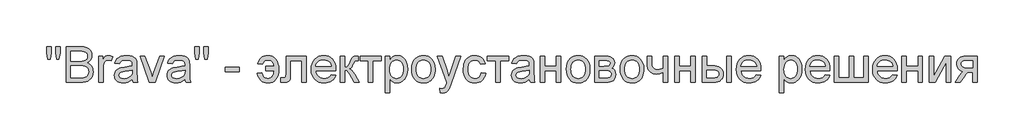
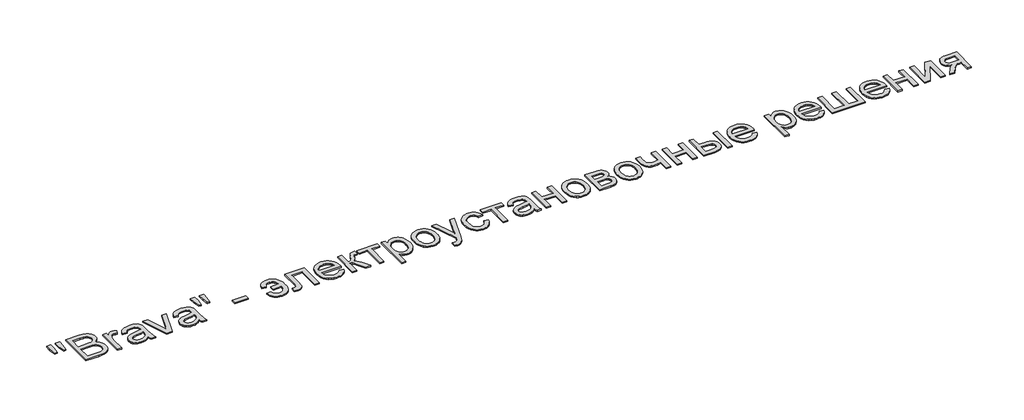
# One storey, part 47 of 47: 1 proxy.
"""IFC4 building model written with IfcOpenShell, lengths in millimetres."""

from ifc_helpers import new_model, si_unit, origin, origin_with_axes, place, context, project, spatial, polyline, outline, extrude, element, save

model = new_model("IFC4")

# Units and contexts
model_context = context("Model", 3, world=origin())
ifc_project = project(units=[si_unit("LENGTHUNIT", "METRE", prefix="MILLI")], contexts=[model_context])

# Site, building, storey
site = spatial("IfcSite", under=ifc_project)
building = spatial("IfcBuilding", under=site)
storey = spatial("IfcBuildingStorey", under=building, Name="Этаж 01", Elevation=0.0)

# Proxy
placement = place(None, origin())
element("IfcBuildingElementProxy", 1, Name="600 мм Arial", ObjectType="600 мм Arial", at=placement, inside=storey, context=model_context, shape_type="SweptSolid", body=[
    extrude(outline(polyline([(-7320.2153929, 8387.4066217), (-7338.6094927, 8503.8044849), (-7338.6094927, 8604.0155404), (-7263.2672601, 8604.0155404), (-7263.2672601, 8503.8044849), (-7279.7483734, 8387.4066217), (-7320.2153929, 8387.4066217)])), origin_with_axes(), (0.0, 0.0, 1.0), 20.0),
    extrude(outline(polyline([(-7169.9723861, 8387.4066217), (-7187.9250274, 8503.8044849), (-7187.9250274, 8604.0155404), (-7112.5827948, 8604.0155404), (-7112.5827948, 8503.8044849), (-7130.2411306, 8387.4066217), (-7169.9723861, 8387.4066217)])), origin_with_axes(), (0.0, 0.0, 1.0), 20.0),
    extrude(outline(polyline([(-7008.987225, 8001.2776795), (-7008.987225, 8604.0155404), (-6778.9874016, 8604.0155404), (-6715.7300925, 8599.5825624), (-6666.3419347, 8586.2836283), (-6646.2647748, 8576.2266542), (-6628.4868774, 8563.7876443), (-6613.0082424, 8548.9665984), (-6599.82887, 8531.7635166), (-6581.7842581, 8494.0924003), (-6575.7693875, 8454.6554504), (-6580.8277649, 8418.3638916), (-6596.0028972, 8384.2428365), (-6621.405149, 8354.3892126), (-6657.1448848, 8330.8999472), (-6634.405179, 8321.2062566), (-6614.4521793, 8308.6062983), (-6597.2858857, 8293.1000722), (-6582.9062982, 8274.6875783), (-6571.5433431, 8253.9298368), (-6563.4269465, 8231.3878675), (-6558.5571086, 8207.0616706), (-6556.9338293, 8180.951246), (-6561.3668074, 8138.920728), (-6574.6657415, 8099.9436306), (-6594.5129751, 8066.7974629), (-6618.5908517, 8042.2597338), (-6648.0765936, 8024.4910334), (-6684.1474233, 8011.6519518), (-6727.980563, 8003.8712476), (-6780.7532352, 8001.2776795), (-7008.987225, 8001.2776795)]), holes=[polyline([(-6933.6449924, 8359.1532844), (-6796.0571262, 8359.1532844), (-6747.9381612, 8360.7719652), (-6715.7116984, 8365.6280076), (-6687.5871199, 8376.7932261), (-6667.3720043, 8393.5134628), (-6655.1767161, 8415.5312002), (-6651.1116201, 8442.5889209), (-6654.9008046, 8468.8556954), (-6666.2683583, 8491.7379555), (-6684.6992462, 8509.5986264), (-6709.6784337, 8520.8006331), (-6748.0117376, 8526.7051391), (-6806.5049748, 8528.6733078), (-6933.6449924, 8528.6733078), (-6933.6449924, 8359.1532844)]), polyline([(-6933.6449924, 8076.6199121), (-6779.1345544, 8076.6199121), (-6723.2164911, 8079.5629681), (-6697.2624164, 8086.0928735), (-6675.9068666, 8095.9705051), (-6658.5428364, 8110.1155678), (-6644.5633206, 8129.4477667), (-6635.3478766, 8153.1025789), (-6632.2760619, 8180.215482), (-6635.8813055, 8211.7061808), (-6646.6970361, 8238.7822956), (-6665.5877766, 8259.9539044), (-6693.4180495, 8273.7310852), (-6732.8366053, 8281.2910602), (-6786.4921943, 8283.8110518), (-6933.6449924, 8283.8110518), (-6933.6449924, 8076.6199121)])]), origin_with_axes(), (0.0, 0.0, 1.0), 20.0),
    extrude(outline(polyline([(-6462.7560386, 8001.2776795), (-6462.7560386, 8443.9132961), (-6396.831585, 8443.9132961), (-6396.831585, 8378.430301), (-6372.4777969, 8416.3957229), (-6350.0369952, 8438.7629482), (-6327.5226171, 8449.6890435), (-6302.9480999, 8453.3310752), (-6265.4241363, 8447.5185397), (-6227.3115616, 8430.0809331), (-6252.4746901, 8362.5377988), (-6278.9621938, 8374.1260816), (-6305.4496974, 8377.9888426), (-6327.9456814, 8374.2732344), (-6348.0504325, 8363.12641), (-6364.2924225, 8345.3944978), (-6375.2001237, 8321.9236265), (-6384.3603854, 8279.8379263), (-6387.4138059, 8233.9262533), (-6387.4138059, 8001.2776795), (-6462.7560386, 8001.2776795)])), origin_with_axes(), (0.0, 0.0, 1.0), 20.0),
    extrude(outline(polyline([(-5897.689294, 8057.784354), (-5933.6865472, 8026.9190546), (-5970.7506582, 8006.7223331), (-6009.7277556, 7995.5755086), (-6051.4639679, 7991.8599005), (-6085.0102074, 7994.0947836), (-6114.4269714, 8000.7994329), (-6139.7142601, 8011.9738485), (-6160.8720733, 8027.6180304), (-6177.5785144, 8046.7386971), (-6189.5116866, 8068.3425673), (-6196.67159, 8092.4296409), (-6199.0582244, 8118.999918), (-6195.4529809, 8150.2330994), (-6184.6372502, 8178.5968012), (-6167.9538017, 8202.8770129), (-6146.7454047, 8221.8597238), (-6121.8213995, 8236.2071217), (-6093.9911266, 8246.5813939), (-6028.802437, 8257.9121594), (-5951.7679473, 8269.831536), (-5898.1307524, 8283.8110518), (-5897.689294, 8300.5864708), (-5902.8764301, 8334.2108852), (-5909.3603503, 8346.6636907), (-5918.4378385, 8356.2102285), (-5934.1280056, 8365.7383722), (-5953.2394752, 8372.5441891), (-6001.7263222, 8377.9888426), (-6046.6079256, 8374.3652049), (-6077.9514716, 8363.494292), (-6099.3254155, 8343.3895409), (-6114.2982127, 8312.0643891), (-6189.6404453, 8321.4821681), (-6176.5622404, 8362.6849516), (-6157.0461006, 8395.0585672), (-6129.2710099, 8419.8170254), (-6091.4159526, 8438.174337), (-6045.1180035, 8449.5418907), (-5992.0142375, 8453.3310752), (-5941.0809753, 8449.9833491), (-5900.7059263, 8439.9401706), (-5870.2636912, 8424.8386147), (-5849.1288706, 8406.3157562), (-5835.1125666, 8383.415102), (-5826.0258813, 8355.1801589), (-5822.3470614, 8289.2557054), (-5822.3470614, 8195.519373), (-5818.5210886, 8064.6269591), (-5812.8557059, 8032.2717376), (-5803.5115032, 8001.2776795), (-5878.8537358, 8001.2776795), (-5890.9202653, 8027.4708776), (-5897.689294, 8057.784354)]), holes=[polyline([(-5897.689294, 8208.4688192), (-5948.3098565, 8195.9240432), (-6019.2375052, 8185.3658299), (-6084.0583127, 8173.1521477), (-6100.9257022, 8164.8012264), (-6113.4152959, 8153.2865199), (-6121.1408178, 8139.4909451), (-6123.7159918, 8124.2974187), (-6118.1057914, 8101.8934052), (-6101.2751901, 8083.5360937), (-6073.59207, 8071.2856232), (-6035.424313, 8067.2021331), (-5994.9572935, 8071.7086875), (-5959.1991636, 8085.2283508), (-5930.2100623, 8105.1491609), (-5910.050129, 8128.8591555), (-5901.1105965, 8153.2865199), (-5898.1307524, 8187.1316635), (-5897.689294, 8208.4688192)])]), origin_with_axes(), (0.0, 0.0, 1.0), 20.0),
    extrude(outline(polyline([(-5610.1527265, 8001.2776795), (-5765.8403869, 8443.9132961), (-5686.0835703, 8443.9132961), (-5591.7586268, 8178.743954), (-5563.3581367, 8089.5693584), (-5535.5462579, 8173.7407589), (-5440.6327032, 8443.9132961), (-5360.8758866, 8443.9132961), (-5514.6505606, 8001.2776795), (-5610.1527265, 8001.2776795)])), origin_with_axes(), (0.0, 0.0, 1.0), 20.0),
    extrude(outline(polyline([(-5012.4180608, 8057.784354), (-5048.415314, 8026.9190546), (-5085.479425, 8006.7223331), (-5124.4565224, 7995.5755086), (-5166.1927348, 7991.8599005), (-5199.7389742, 7994.0947836), (-5229.1557382, 8000.7994329), (-5254.4430269, 8011.9738485), (-5275.6008401, 8027.6180304), (-5292.3072812, 8046.7386971), (-5304.2404534, 8068.3425673), (-5311.4003568, 8092.4296409), (-5313.7869912, 8118.999918), (-5310.1817477, 8150.2330994), (-5299.366017, 8178.5968012), (-5282.6825685, 8202.8770129), (-5261.4741715, 8221.8597238), (-5236.5501663, 8236.2071217), (-5208.7198934, 8246.5813939), (-5143.5312039, 8257.9121594), (-5066.4967141, 8269.831536), (-5012.8595192, 8283.8110518), (-5012.4180608, 8300.5864708), (-5017.6051969, 8334.2108852), (-5024.0891171, 8346.6636907), (-5033.1666053, 8356.2102285), (-5048.8567724, 8365.7383722), (-5067.968242, 8372.5441891), (-5116.455089, 8377.9888426), (-5161.3366924, 8374.3652049), (-5192.6802384, 8363.494292), (-5214.0541823, 8343.3895409), (-5229.0269795, 8312.0643891), (-5304.3692121, 8321.4821681), (-5291.2910072, 8362.6849516), (-5271.7748674, 8395.0585672), (-5243.9997767, 8419.8170254), (-5206.1447194, 8438.174337), (-5159.8467703, 8449.5418907), (-5106.7430043, 8453.3310752), (-5055.8097421, 8449.9833491), (-5015.4346931, 8439.9401706), (-4984.992458, 8424.8386147), (-4963.8576374, 8406.3157562), (-4949.8413334, 8383.415102), (-4940.7546481, 8355.1801589), (-4937.0758282, 8289.2557054), (-4937.0758282, 8195.519373), (-4933.2498554, 8064.6269591), (-4927.5844727, 8032.2717376), (-4918.24027, 8001.2776795), (-4993.5825026, 8001.2776795), (-5005.6490321, 8027.4708776), (-5012.4180608, 8057.784354)]), holes=[polyline([(-5012.4180608, 8208.4688192), (-5063.0386233, 8195.9240432), (-5133.966272, 8185.3658299), (-5198.7870795, 8173.1521477), (-5215.654469, 8164.8012264), (-5228.1440627, 8153.2865199), (-5235.8695846, 8139.4909451), (-5238.4447586, 8124.2974187), (-5232.8345582, 8101.8934052), (-5216.0039569, 8083.5360937), (-5188.3208368, 8071.2856232), (-5150.1530798, 8067.2021331), (-5109.6860603, 8071.7086875), (-5073.9279304, 8085.2283508), (-5044.9388291, 8105.1491609), (-5024.7788958, 8128.8591555), (-5015.8393633, 8153.2865199), (-5012.8595192, 8187.1316635), (-5012.4180608, 8208.4688192)])]), origin_with_axes(), (0.0, 0.0, 1.0), 20.0),
    extrude(outline(polyline([(-4683.6787099, 8387.4066217), (-4701.6313512, 8503.8044849), (-4701.6313512, 8604.0155404), (-4626.2891186, 8604.0155404), (-4626.2891186, 8503.8044849), (-4643.9474544, 8387.4066217), (-4683.6787099, 8387.4066217)])), origin_with_axes(), (0.0, 0.0, 1.0), 20.0),
    extrude(outline(polyline([(-4833.9217167, 8387.4066217), (-4852.3158165, 8503.8044849), (-4852.3158165, 8604.0155404), (-4776.9735839, 8604.0155404), (-4776.9735839, 8503.8044849), (-4793.4546972, 8387.4066217), (-4833.9217167, 8387.4066217)])), origin_with_axes(), (0.0, 0.0, 1.0), 20.0),
    extrude(outline(polyline([(-4334.3379673, 8180.215482), (-4334.3379673, 8255.5577146), (-4098.8934903, 8255.5577146), (-4098.8934903, 8180.215482), (-4334.3379673, 8180.215482)])), origin_with_axes(), (0.0, 0.0, 1.0), 20.0),
    extrude(outline(polyline([(-3656.2578738, 8274.3932728), (-3514.9911876, 8274.3932728), (-3519.4379612, 8296.3420323), (-3526.5978646, 8316.1294851), (-3536.4708976, 8333.7556312), (-3549.0570604, 8349.2204706), (-3563.9884708, 8361.8066333), (-3580.897247, 8370.7967496), (-3599.783389, 8376.1908193), (-3620.6468966, 8377.9888426), (-3654.9334986, 8373.2799531), (-3681.7153078, 8359.1532844), (-3700.9923244, 8335.6088367), (-3712.7645482, 8302.64661), (-3788.1067808, 8312.0643891), (-3781.3975329, 8341.7662616), (-3770.5404156, 8368.6262458), (-3755.5354287, 8392.6443416), (-3736.3825723, 8413.8205489), (-3713.5141078, 8431.1064042), (-3687.3622964, 8443.4534436), (-3657.9271383, 8450.8616673), (-3625.2086334, 8453.3310752), (-3584.4978921, 8449.4867084), (-3548.3029023, 8437.9536078), (-3516.623664, 8418.7317736), (-3489.4601771, 8391.8212056), (-3467.6677674, 8358.1783972), (-3452.1017605, 8318.7598414), (-3442.7621564, 8273.5655383), (-3439.648955, 8222.5954878), (-3441.6309192, 8172.1772604), (-3449.9312568, 8126.8725927), (-3464.5499675, 8086.6814847), (-3485.4870516, 8051.6039365), (-3512.0619272, 8023.4793579), (-3543.5940127, 8004.1471591), (-3580.0833081, 7993.6073399), (-3621.5298134, 7991.8599005), (-3656.6993321, 7994.6144169), (-3688.3371837, 8002.8779662), (-3716.4433682, 8016.6505484), (-3741.0178854, 8035.9321635), (-3761.6560654, 8059.7111359), (-3777.9532378, 8086.9757903), (-3789.9094026, 8117.7261266), (-3797.5245599, 8151.9621448), (-3722.1823273, 8161.3799238), (-3710.2813447, 8120.1771404), (-3701.0888934, 8103.9903326), (-3689.7351353, 8090.7465808), (-3676.2200705, 8080.4458849), (-3660.543699, 8073.088245), (-3642.7060208, 8068.673661), (-3622.7070358, 8067.2021331), (-3600.1098842, 8069.2622722), (-3580.1430889, 8075.4426898), (-3562.8066499, 8085.7433856), (-3548.1005672, 8100.1643598), (-3535.9880525, 8118.7056124), (-3526.4323177, 8141.3671433), (-3519.4333627, 8168.1489525), (-3514.9911876, 8199.0510401), (-3656.2578738, 8199.0510401), (-3656.2578738, 8274.3932728)])), origin_with_axes(), (0.0, 0.0, 1.0), 20.0),
    extrude(outline(polyline([(-3317.217827, 8443.9132961), (-2978.1777802, 8443.9132961), (-2978.1777802, 8001.7191379), (-3053.5200129, 8001.7191379), (-3053.5200129, 8368.5710635), (-3241.8755944, 8368.5710635), (-3241.8755944, 8157.4067983), (-3243.1447873, 8096.1176579), (-3246.9523659, 8059.991646), (-3256.4621155, 8037.9371204), (-3274.8378212, 8018.8624389), (-3302.7232764, 8005.6738694), (-3340.7622747, 8001.2776795), (-3401.9778387, 8005.1036523), (-3401.9778387, 8076.6199121), (-3368.2798479, 8076.6199121), (-3347.8440031, 8077.7787404), (-3334.2139752, 8081.2552253), (-3325.697507, 8087.2517018), (-3320.6023414, 8095.9705051), (-3317.217827, 8161.6742294), (-3317.217827, 8443.9132961)])), origin_with_axes(), (0.0, 0.0, 1.0), 20.0),
    extrude(outline(polyline([(-2555.2606386, 8133.1265866), (-2481.389934, 8123.7088075), (-2492.7161009, 8094.1218981), (-2508.0061963, 8068.0482617), (-2527.2602202, 8045.4878983), (-2550.4781726, 8026.440808), (-2577.4209303, 8011.311661), (-2607.8493698, 8000.5051273), (-2641.7634912, 7994.0212072), (-2679.1632946, 7991.8599005), (-2725.9118991, 7995.5893042), (-2767.565338, 8006.7775154), (-2804.1236113, 8025.424534), (-2835.5867189, 8051.5303601), (-2860.8878031, 8084.3684267), (-2878.9600061, 8123.2121668), (-2889.8033279, 8168.0615806), (-2893.4177686, 8218.9166679), (-2889.7665397, 8271.496202), (-2878.8128533, 8317.8401364), (-2860.5567093, 8357.9484709), (-2834.9981077, 8391.8212056), (-2803.6177735, 8418.7317736), (-2767.8964318, 8437.9536078), (-2727.8340825, 8449.4867084), (-2683.4307257, 8453.3310752), (-2640.4575101, 8449.4959054), (-2601.5953759, 8437.990396), (-2566.8443229, 8418.814547), (-2536.2043512, 8391.9683584), (-2511.1929741, 8358.1692001), (-2493.3277047, 8318.134442), (-2482.6085431, 8271.864084), (-2479.0354892, 8219.3581263), (-2479.4769476, 8199.0510401), (-2818.0755359, 8199.0510401), (-2813.7115358, 8168.9858841), (-2805.0341192, 8142.6547303), (-2792.0432863, 8120.0575787), (-2774.7390369, 8101.1944294), (-2754.0778644, 8086.3227998), (-2731.0162618, 8075.7002072), (-2705.5542292, 8069.3266516), (-2677.6917666, 8067.2021331), (-2637.5926291, 8071.1384704), (-2603.8210619, 8082.9474825), (-2576.3770651, 8103.3649332), (-2555.2606386, 8133.1265866)]), holes=[polyline([(-2818.0755359, 8274.3932728), (-2554.3777218, 8274.3932728), (-2564.5680531, 8314.1981046), (-2573.3328416, 8329.8514835), (-2584.5440454, 8342.6721711), (-2605.0902548, 8358.1232149), (-2628.4691556, 8369.1596747), (-2654.6807478, 8375.7815506), (-2683.7250313, 8377.9888426), (-2710.2171335, 8376.2276075), (-2734.5111407, 8370.9439024), (-2756.6070531, 8362.1377271), (-2776.5048705, 8349.8090818), (-2793.2021145, 8334.5281834), (-2805.6963068, 8316.8652491), (-2813.9874473, 8296.8202789), (-2818.0755359, 8274.3932728)])]), origin_with_axes(), (0.0, 0.0, 1.0), 20.0),
    extrude(outline(polyline([(-2403.6932566, 8443.9132961), (-2328.351024, 8443.9132961), (-2328.351024, 8255.5577146), (-2297.7064538, 8258.942229), (-2277.8776142, 8269.095772), (-2260.3296431, 8295.5832757), (-2236.527678, 8347.9696718), (-2217.3426319, 8390.8095301), (-2202.1674996, 8416.0278409), (-2188.0040428, 8429.7682334), (-2171.8540232, 8438.174337), (-2149.505192, 8442.4785563), (-2116.7453003, 8443.9132961), (-2102.3243261, 8443.9132961), (-2102.3243261, 8368.1296051), (-2122.6314123, 8368.5710635), (-2146.1758599, 8366.5845007), (-2159.4196118, 8360.6248124), (-2170.161766, 8344.0333344), (-2185.3185042, 8311.0343195), (-2201.2294005, 8277.9801222), (-2215.705557, 8257.3971246), (-2233.2351341, 8243.6567321), (-2258.3062921, 8231.1303501), (-2234.4307506, 8220.5261516), (-2210.7759383, 8201.8101551), (-2187.3418552, 8174.9823606), (-2164.1285013, 8140.0427681), (-2083.488768, 8001.2776795), (-2169.1316964, 8001.2776795), (-2248.152749, 8137.0997122), (-2269.4899047, 8173.2441182), (-2287.8840045, 8194.5628798), (-2306.4620452, 8204.9923344), (-2328.351024, 8208.4688192), (-2328.351024, 8001.2776795), (-2403.6932566, 8001.2776795), (-2403.6932566, 8443.9132961)])), origin_with_axes(), (0.0, 0.0, 1.0), 20.0),
    extrude(outline(polyline([(-2074.0709889, 8443.9132961), (-1716.195384, 8443.9132961), (-1716.195384, 8368.5710635), (-1857.4620701, 8368.5710635), (-1857.4620701, 8001.2776795), (-1932.8043027, 8001.2776795), (-1932.8043027, 8368.5710635), (-2074.0709889, 8368.5710635), (-2074.0709889, 8443.9132961)])), origin_with_axes(), (0.0, 0.0, 1.0), 20.0),
    extrude(outline(polyline([(-1650.2709305, 7831.7576562), (-1650.2709305, 8443.9132961), (-1574.9286978, 8443.9132961), (-1574.9286978, 8370.0425915), (-1550.3541806, 8406.4813031), (-1522.8366073, 8432.5089543), (-1490.7572973, 8448.125545), (-1452.4975698, 8453.3310752), (-1426.2215983, 8451.5100593), (-1401.5459135, 8446.0470117), (-1378.4705154, 8436.9419323), (-1356.9954039, 8424.1948212), (-1337.5896287, 8408.1367721), (-1320.7222392, 8389.0988788), (-1306.3932355, 8367.0811414), (-1294.6026175, 8342.0835599), (-1278.8204799, 8286.5701668), (-1273.5597674, 8225.9800022), (-1279.5010616, 8161.5454707), (-1286.9276794, 8131.8803863), (-1297.3249443, 8103.9167562), (-1310.550302, 8078.3857457), (-1326.4611983, 8056.0185204), (-1345.0576332, 8036.8150803), (-1366.3396066, 8020.7754253), (-1389.2632534, 8008.1248832), (-1412.7847085, 7999.0887817), (-1436.9039718, 7993.6671208), (-1461.6210433, 7991.8599005), (-1496.2571332, 7996.6975487), (-1527.1776149, 8011.2104934), (-1553.6467244, 8033.1178662), (-1574.9286978, 8060.1387988), (-1574.9286978, 7831.7576562), (-1650.2709305, 7831.7576562)]), holes=[polyline([(-1574.9286978, 8219.0638207), (-1572.8915513, 8182.7538678), (-1566.7801116, 8151.5206864), (-1556.5943789, 8125.3642765), (-1542.3343531, 8104.2846382), (-1525.1680595, 8088.0610422), (-1506.2635234, 8076.4727593), (-1485.620745, 8069.5197896), (-1463.2397241, 8067.2021331), (-1440.5368065, 8069.6025631), (-1419.516949, 8076.8038531), (-1400.1801516, 8088.8060032), (-1382.5264144, 8105.6090134), (-1367.8157331, 8127.4520068), (-1357.3081036, 8154.5741069), (-1351.0035259, 8186.9753136), (-1348.902, 8224.655627), (-1350.9529421, 8260.6528802), (-1357.1057685, 8291.8308793), (-1367.3604791, 8318.1896243), (-1381.717074, 8339.7291151), (-1398.9247543, 8356.4677459), (-1417.7327213, 8368.4239107), (-1438.140975, 8375.5976096), (-1460.1495153, 8377.9888426), (-1482.0890778, 8375.4458583), (-1502.7318563, 8367.8169054), (-1522.0778507, 8355.101984), (-1540.1270611, 8337.3010939), (-1555.3527772, 8314.6533586), (-1566.2282887, 8287.3979013), (-1572.7535955, 8255.534722), (-1574.9286978, 8219.0638207)])]), origin_with_axes(), (0.0, 0.0, 1.0), 20.0),
    extrude(outline(polyline([(-1207.6353139, 8222.5954878), (-1203.5610208, 8279.9206997), (-1191.3381415, 8329.3180546), (-1170.966676, 8370.7875525), (-1142.4466243, 8404.3291934), (-1113.7334346, 8425.7675167), (-1082.0404007, 8441.0806048), (-1047.3675227, 8450.2684576), (-1009.7148004, 8453.3310752), (-968.1487335, 8449.6016715), (-930.5649892, 8438.4134603), (-896.9635675, 8419.7664417), (-867.3444683, 8393.6606156), (-843.1700227, 8360.9788988), (-825.9025616, 8322.6042082), (-815.5420849, 8278.5365437), (-812.0885926, 8228.7759054), (-813.6153029, 8188.4468416), (-818.1954338, 8152.6611205), (-825.8289852, 8121.4187421), (-836.5159571, 8094.7197063), (-850.1229924, 8071.6581037), (-866.5167338, 8051.328025), (-885.6971813, 8033.72947), (-907.664335, 8018.8624389), (-931.5628691, 8007.0488283), (-956.537458, 7998.6105351), (-982.5881018, 7993.5475591), (-1009.7148004, 7991.8599005), (-1051.8878727, 7995.5755086), (-1089.8211049, 8006.7223331), (-1123.5144971, 8025.3003738), (-1152.9680494, 8051.3096309), (-1176.8849776, 8084.3086458), (-1193.9684977, 8123.8559603), (-1204.2186098, 8169.9515743), (-1207.6353139, 8222.5954878)]), holes=[polyline([(-1132.2930812, 8222.7426406), (-1130.1133804, 8186.1981629), (-1123.574278, 8154.5557128), (-1112.6757738, 8127.8152903), (-1097.4178681, 8105.9768954), (-1078.8582214, 8089.0129369), (-1058.0544946, 8076.8958236), (-1035.0066876, 8069.6255557), (-1009.7148004, 8067.2021331), (-984.551672, 8069.6393513), (-961.5958355, 8076.9510059), (-940.847291, 8089.137097), (-922.3060384, 8106.1976246), (-907.0481326, 8128.2521502), (-896.1496285, 8155.4202355), (-889.6105261, 8187.7018806), (-887.4308253, 8225.0970854), (-889.6243216, 8260.4827348), (-896.2048108, 8291.2974504), (-907.1722928, 8317.5412323), (-922.5267676, 8339.2140803), (-941.136998, 8356.1780388), (-961.871747, 8368.295152), (-984.7310145, 8375.56542), (-1009.7148004, 8377.9888426), (-1035.0066876, 8375.574617), (-1058.0544946, 8368.3319402), (-1078.8582214, 8356.2608123), (-1097.4178681, 8339.3612331), (-1112.6757738, 8317.5872175), (-1123.574278, 8290.8927802), (-1130.1133804, 8259.2779213), (-1132.2930812, 8222.7426406)])]), origin_with_axes(), (0.0, 0.0, 1.0), 20.0),
    extrude(outline(polyline([(-727.328581, 7831.7576562), (-736.74636, 7904.3039856), (-698.4866325, 7897.6821097), (-678.3634874, 7899.760643), (-662.7285026, 7905.9962428), (-650.5516086, 7915.9474508), (-640.8027357, 7929.1728085), (-620.201344, 7984.6494134), (-614.315232, 8002.8963603), (-774.4174763, 8443.9132961), (-694.9549654, 8443.9132961), (-610.0478009, 8198.1681234), (-580.4700885, 8099.8700542), (-550.8923761, 8186.6902051), (-463.6307668, 8443.9132961), (-384.756867, 8443.9132961), (-538.8258466, 7990.6826781), (-578.8514077, 7892.384609), (-599.3424348, 7861.0042748), (-622.5557887, 7839.2624489), (-649.521539, 7826.57052), (-681.2697552, 7822.3398771), (-703.0851575, 7824.6943218), (-727.328581, 7831.7576562)])), origin_with_axes(), (0.0, 0.0, 1.0), 20.0),
    extrude(outline(polyline([(-39.8307084, 8161.3799238), (35.5115242, 8151.9621448), (27.3169528, 8116.4109484), (14.5054623, 8084.9524393), (-2.9229472, 8057.5866174), (-24.9682758, 8034.3134827), (-50.7016213, 8015.7400405), (-79.1940818, 8002.473296), (-110.4456573, 7994.5132493), (-144.4563478, 7991.8599005), (-186.7121935, 7995.561713), (-224.5994404, 8006.6671508), (-258.1180887, 8025.1762136), (-287.2681383, 8051.0889017), (-310.8631698, 8083.9177712), (-327.7167637, 8123.1753786), (-337.82892, 8168.8617239), (-341.1996388, 8220.9768071), (-335.4422856, 8288.0233007), (-328.2455941, 8318.1942228), (-318.1702259, 8346.1302618), (-305.1472033, 8371.2703977), (-289.1075483, 8393.0536103), (-270.0512609, 8411.4798997), (-247.9783412, 8426.549266), (-223.8866691, 8438.2663075), (-198.7741244, 8446.6356229), (-172.6407071, 8451.6572121), (-145.4864174, 8453.3310752), (-112.0597396, 8451.0318127), (-81.8244381, 8444.1340253), (-54.7805129, 8432.637713), (-30.9279641, 8416.5428757), (-10.6714617, 8396.2173955), (5.5843239, 8372.0291543), (17.8393929, 8343.9781521), (26.0937452, 8312.0643891), (-49.2484874, 8302.64661), (-62.9153036, 8335.5168663), (-84.197277, 8359.079708), (-111.9171853, 8373.261559), (-144.8978062, 8377.9888426), (-170.4977945, 8375.661989), (-193.5869882, 8368.6814281), (-214.1653874, 8357.04716), (-232.2329918, 8340.7591847), (-246.9436731, 8319.4404231), (-257.4513026, 8292.7137961), (-263.7558803, 8260.5793038), (-265.8574062, 8223.0369462), (-263.8018656, 8184.9289701), (-257.6352436, 8152.4219973), (-247.3575404, 8125.5160278), (-232.9687558, 8104.2110618), (-215.2598363, 8088.0196555), (-195.021728, 8076.4543652), (-172.2544311, 8069.5151911), (-146.9579454, 8067.2021331), (-107.9440598, 8072.9778804), (-91.0720718, 8080.1975645), (-75.9567203, 8090.3051224), (-63.0210696, 8103.4109184), (-52.6881841, 8119.6253174), (-44.9580637, 8138.9483192), (-39.8307084, 8161.3799238)])), origin_with_axes(), (0.0, 0.0, 1.0), 20.0),
    extrude(outline(polyline([(63.7648615, 8443.9132961), (421.6404664, 8443.9132961), (421.6404664, 8368.5710635), (280.3737802, 8368.5710635), (280.3737802, 8001.2776795), (205.0315476, 8001.2776795), (205.0315476, 8368.5710635), (63.7648615, 8368.5710635), (63.7648615, 8443.9132961)])), origin_with_axes(), (0.0, 0.0, 1.0), 20.0),
    extrude(outline(polyline([(770.0982922, 8057.784354), (734.101039, 8026.9190546), (697.036928, 8006.7223331), (658.0598306, 7995.5755086), (616.3236182, 7991.8599005), (582.7773788, 7994.0947836), (553.3606148, 8000.7994329), (528.0733261, 8011.9738485), (506.9155129, 8027.6180304), (490.2090718, 8046.7386971), (478.2758995, 8068.3425673), (471.1159962, 8092.4296409), (468.7293618, 8118.999918), (472.3346053, 8150.2330994), (483.150336, 8178.5968012), (499.8337845, 8202.8770129), (521.0421815, 8221.8597238), (545.9661867, 8236.2071217), (573.7964596, 8246.5813939), (638.9851491, 8257.9121594), (716.0196389, 8269.831536), (769.6568338, 8283.8110518), (770.0982922, 8300.5864708), (764.9111561, 8334.2108852), (758.4272359, 8346.6636907), (749.3497477, 8356.2102285), (733.6595806, 8365.7383722), (714.5481109, 8372.5441891), (666.061264, 8377.9888426), (621.1796606, 8374.3652049), (589.8361146, 8363.494292), (568.4621707, 8343.3895409), (553.4893735, 8312.0643891), (478.1471408, 8321.4821681), (491.2253458, 8362.6849516), (510.7414856, 8395.0585672), (538.5165763, 8419.8170254), (576.3716336, 8438.174337), (622.6695826, 8449.5418907), (675.7733487, 8453.3310752), (726.7066109, 8449.9833491), (767.0816599, 8439.9401706), (797.523895, 8424.8386147), (818.6587156, 8406.3157562), (832.6750196, 8383.415102), (841.7617049, 8355.1801589), (845.4405248, 8289.2557054), (845.4405248, 8195.519373), (849.2664976, 8064.6269591), (854.9318803, 8032.2717376), (864.276083, 8001.2776795), (788.9338504, 8001.2776795), (776.8673209, 8027.4708776), (770.0982922, 8057.784354)]), holes=[polyline([(770.0982922, 8208.4688192), (719.4777297, 8195.9240432), (648.550081, 8185.3658299), (583.7292735, 8173.1521477), (566.861884, 8164.8012264), (554.3722902, 8153.2865199), (546.6467683, 8139.4909451), (544.0715944, 8124.2974187), (549.6817948, 8101.8934052), (566.5123961, 8083.5360937), (594.1955162, 8071.2856232), (632.3632732, 8067.2021331), (672.8302927, 8071.7086875), (708.5884226, 8085.2283508), (737.5775238, 8105.1491609), (757.7374572, 8128.8591555), (766.6769897, 8153.2865199), (769.6568338, 8187.1316635), (770.0982922, 8208.4688192)])]), origin_with_axes(), (0.0, 0.0, 1.0), 20.0),
    extrude(outline(polyline([(949.0360947, 8443.9132961), (1024.3783273, 8443.9132961), (1024.3783273, 8274.3932728), (1222.1516879, 8274.3932728), (1222.1516879, 8443.9132961), (1297.4939205, 8443.9132961), (1297.4939205, 8001.2776795), (1222.1516879, 8001.2776795), (1222.1516879, 8199.0510401), (1024.3783273, 8199.0510401), (1024.3783273, 8001.2776795), (949.0360947, 8001.2776795), (949.0360947, 8443.9132961)])), origin_with_axes(), (0.0, 0.0, 1.0), 20.0),
    extrude(outline(polyline([(1391.6717113, 8222.5954878), (1395.7460044, 8279.9206997), (1407.9688837, 8329.3180546), (1428.3403491, 8370.7875525), (1456.8604008, 8404.3291934), (1485.5735905, 8425.7675167), (1517.2666244, 8441.0806048), (1551.9395025, 8450.2684576), (1589.5922247, 8453.3310752), (1631.1582916, 8449.6016715), (1668.7420359, 8438.4134603), (1702.3434577, 8419.7664417), (1731.9625568, 8393.6606156), (1756.1370024, 8360.9788988), (1773.4044636, 8322.6042082), (1783.7649403, 8278.5365437), (1787.2184325, 8228.7759054), (1785.6917222, 8188.4468416), (1781.1115914, 8152.6611205), (1773.47804, 8121.4187421), (1762.791068, 8094.7197063), (1749.1840327, 8071.6581037), (1732.7902913, 8051.328025), (1713.6098438, 8033.72947), (1691.6426901, 8018.8624389), (1667.744156, 8007.0488283), (1642.7695671, 7998.6105351), (1616.7189233, 7993.5475591), (1589.5922247, 7991.8599005), (1547.4191525, 7995.5755086), (1509.4859202, 8006.7223331), (1475.792528, 8025.3003738), (1446.3389758, 8051.3096309), (1422.4220475, 8084.3086458), (1405.3385274, 8123.8559603), (1395.0884153, 8169.9515743), (1391.6717113, 8222.5954878)]), holes=[polyline([(1467.0139439, 8222.7426406), (1469.1936447, 8186.1981629), (1475.7327472, 8154.5557128), (1486.6312513, 8127.8152903), (1501.889157, 8105.9768954), (1520.4488037, 8089.0129369), (1541.2525305, 8076.8958236), (1564.3003375, 8069.6255557), (1589.5922247, 8067.2021331), (1614.7553531, 8069.6393513), (1637.7111896, 8076.9510059), (1658.4597342, 8089.137097), (1677.0009867, 8106.1976246), (1692.2588925, 8128.2521502), (1703.1573966, 8155.4202355), (1709.696499, 8187.7018806), (1711.8761999, 8225.0970854), (1709.6827035, 8260.4827348), (1703.1022143, 8291.2974504), (1692.1347323, 8317.5412323), (1676.7802575, 8339.2140803), (1658.1700271, 8356.1780388), (1637.4352781, 8368.295152), (1614.5760107, 8375.56542), (1589.5922247, 8377.9888426), (1564.3003375, 8375.574617), (1541.2525305, 8368.3319402), (1520.4488037, 8356.2608123), (1501.889157, 8339.3612331), (1486.6312513, 8317.5872175), (1475.7327472, 8290.8927802), (1469.1936447, 8259.2779213), (1467.0139439, 8222.7426406)])]), origin_with_axes(), (0.0, 0.0, 1.0), 20.0),
    extrude(outline(polyline([(1871.9784442, 8443.9132961), (2037.9668004, 8443.9132961), (2091.3280838, 8441.3933045), (2128.980806, 8433.8333295), (2156.6823202, 8419.559508), (2180.1899797, 8396.8979771), (2196.2480288, 8367.375447), (2201.6007118, 8332.518628), (2198.3633503, 8304.4308377), (2188.6512656, 8280.2058083), (2172.4276696, 8259.7331752), (2149.6557741, 8242.902574), (2177.5412294, 8227.2491951), (2200.2763367, 8202.0676725), (2215.3962867, 8169.344569), (2220.43627, 8131.0664474), (2216.2516123, 8100.2287392), (2207.6707648, 8073.640068), (2194.6937274, 8051.3004338), (2177.3205002, 8033.2098367), (2155.523492, 8019.2395179), (2129.2751116, 8009.2607188), (2098.5753591, 8003.2734394), (2063.4242345, 8001.2776795), (1871.9784442, 8001.2776795), (1871.9784442, 8443.9132961)]), holes=[polyline([(1947.3206768, 8274.3932728), (2021.7799926, 8274.3932728), (2083.2162858, 8278.2192455), (2099.0352116, 8283.9582046), (2113.0883038, 8293.5231365), (2122.9659354, 8306.1782771), (2126.2584792, 8321.1878625), (2124.8145424, 8333.4291359), (2120.4827319, 8343.6654524), (2113.2630478, 8351.8968121), (2103.1554899, 8358.1232149), (2071.8487321, 8365.9591014), (2024.1344374, 8368.5710635), (1947.3206768, 8368.5710635), (1947.3206768, 8274.3932728)]), polyline([(1947.3206768, 8076.6199121), (2039.732634, 8076.6199121), (2090.0956791, 8080.0228206), (2121.6967425, 8090.231546), (2131.4916006, 8098.2743661), (2138.6561025, 8108.7911926), (2145.0940374, 8137.246865), (2141.8750699, 8156.1008172), (2132.2181676, 8173.5200297), (2117.3925232, 8187.1500576), (2098.6673296, 8194.6364562), (2032.3749941, 8199.0510401), (1947.3206768, 8199.0510401), (1947.3206768, 8076.6199121)])]), origin_with_axes(), (0.0, 0.0, 1.0), 20.0),
    extrude(outline(polyline([(2295.7785026, 8222.5954878), (2299.8527957, 8279.9206997), (2312.075675, 8329.3180546), (2332.4471405, 8370.7875525), (2360.9671922, 8404.3291934), (2389.6803819, 8425.7675167), (2421.3734158, 8441.0806048), (2456.0462938, 8450.2684576), (2493.699016, 8453.3310752), (2535.2650829, 8449.6016715), (2572.8488273, 8438.4134603), (2606.450249, 8419.7664417), (2636.0693482, 8393.6606156), (2660.2437938, 8360.9788988), (2677.5112549, 8322.6042082), (2687.8717316, 8278.5365437), (2691.3252238, 8228.7759054), (2689.7985135, 8188.4468416), (2685.2183827, 8152.6611205), (2677.5848313, 8121.4187421), (2666.8978593, 8094.7197063), (2653.2908241, 8071.6581037), (2636.8970826, 8051.328025), (2617.7166351, 8033.72947), (2595.7494815, 8018.8624389), (2571.8509474, 8007.0488283), (2546.8763584, 7998.6105351), (2520.8257146, 7993.5475591), (2493.699016, 7991.8599005), (2451.5259438, 7995.5755086), (2413.5927116, 8006.7223331), (2379.8993193, 8025.3003738), (2350.4457671, 8051.3096309), (2326.5288389, 8084.3086458), (2309.4453187, 8123.8559603), (2299.1952066, 8169.9515743), (2295.7785026, 8222.5954878)]), holes=[polyline([(2371.1207352, 8222.7426406), (2373.300436, 8186.1981629), (2379.8395385, 8154.5557128), (2390.7380426, 8127.8152903), (2405.9959484, 8105.9768954), (2424.555595, 8089.0129369), (2445.3593219, 8076.8958236), (2468.4071289, 8069.6255557), (2493.699016, 8067.2021331), (2518.8621445, 8069.6393513), (2541.817981, 8076.9510059), (2562.5665255, 8089.137097), (2581.1077781, 8106.1976246), (2596.3656838, 8128.2521502), (2607.2641879, 8155.4202355), (2613.8032904, 8187.7018806), (2615.9829912, 8225.0970854), (2613.7894948, 8260.4827348), (2607.2090056, 8291.2974504), (2596.2415236, 8317.5412323), (2580.8870489, 8339.2140803), (2562.2768184, 8356.1780388), (2541.5420695, 8368.295152), (2518.682802, 8375.56542), (2493.699016, 8377.9888426), (2468.4071289, 8375.574617), (2445.3593219, 8368.3319402), (2424.555595, 8356.2608123), (2405.9959484, 8339.3612331), (2390.7380426, 8317.5872175), (2379.8395385, 8290.8927802), (2373.300436, 8259.2779213), (2371.1207352, 8222.7426406)])]), origin_with_axes(), (0.0, 0.0, 1.0), 20.0),
    extrude(outline(polyline([(2747.8318983, 8443.9132961), (2823.1741309, 8443.9132961), (2823.1741309, 8359.0061316), (2824.7008412, 8311.6597189), (2829.280972, 8279.3964679), (2839.6736384, 8256.2566904), (2858.6379552, 8236.2806981), (2884.8311533, 8222.4851232), (2916.9104633, 8217.8865983), (2963.0060773, 8223.5887692), (3020.9474915, 8240.695282), (3020.9474915, 8443.9132961), (3096.2897241, 8443.9132961), (3096.2897241, 8001.2776795), (3020.9474915, 8001.2776795), (3020.9474915, 8168.4432581), (2956.6417187, 8149.0190888), (2896.7505299, 8142.5443657), (2873.256666, 8144.2320243), (2851.1883448, 8149.2950003), (2830.5455664, 8157.7332936), (2811.3283307, 8169.5469041), (2780.2606962, 8199.584469), (2769.1828496, 8216.8795213), (2761.0756501, 8235.6920869), (2751.1428362, 8276.7845057), (2747.8318983, 8321.7764737), (2747.8318983, 8443.9132961)])), origin_with_axes(), (0.0, 0.0, 1.0), 20.0),
    extrude(outline(polyline([(3209.303073, 8443.9132961), (3284.6453056, 8443.9132961), (3284.6453056, 8274.3932728), (3482.4186663, 8274.3932728), (3482.4186663, 8443.9132961), (3557.7608989, 8443.9132961), (3557.7608989, 8001.2776795), (3482.4186663, 8001.2776795), (3482.4186663, 8199.0510401), (3284.6453056, 8199.0510401), (3284.6453056, 8001.2776795), (3209.303073, 8001.2776795), (3209.303073, 8443.9132961)])), origin_with_axes(), (0.0, 0.0, 1.0), 20.0),
    extrude(outline(polyline([(4085.1565272, 8443.9132961), (4160.4987598, 8443.9132961), (4160.4987598, 8001.2776795), (4085.1565272, 8001.2776795), (4085.1565272, 8443.9132961)])), origin_with_axes(), (0.0, 0.0, 1.0), 20.0),
    extrude(outline(polyline([(3670.7742478, 8443.9132961), (3746.1164804, 8443.9132961), (3746.1164804, 8283.8110518), (3839.2642016, 8283.8110518), (3882.1270525, 8281.4520085), (3919.7751762, 8274.3748787), (3952.2085726, 8262.5796622), (3979.4272417, 8246.0663591), (4000.962134, 8225.4051866), (4016.3442, 8201.1663616), (4025.5734395, 8173.3498843), (4028.6498527, 8141.9557545), (4026.0700802, 8113.9461391), (4018.3307627, 8088.0426481), (4005.4319003, 8064.2452815), (3987.3734928, 8042.5540394), (3963.6497027, 8024.495632), (3933.754692, 8011.5967695), (3897.6884609, 8003.857452), (3855.4510094, 8001.2776795), (3670.7742478, 8001.2776795), (3670.7742478, 8443.9132961)]), holes=[polyline([(3746.1164804, 8076.6199121), (3823.5188522, 8076.6199121), (3883.5204056, 8080.5746436), (3905.9887985, 8085.5180579), (3923.4356021, 8092.4388379), (3936.50461, 8101.4565453), (3945.8396156, 8112.6907418), (3951.440619, 8126.1414272), (3953.3076201, 8141.8086017), (3947.7709961, 8166.4199072), (3931.161124, 8188.1617331), (3916.7447483, 8197.0460833), (3895.6421173, 8203.3920477), (3833.3780897, 8208.4688192), (3746.1164804, 8208.4688192), (3746.1164804, 8076.6199121)])]), origin_with_axes(), (0.0, 0.0, 1.0), 20.0),
    extrude(outline(polyline([(4583.4159014, 8133.1265866), (4657.2866061, 8123.7088075), (4645.9604391, 8094.1218981), (4630.6703437, 8068.0482617), (4611.4163198, 8045.4878983), (4588.1983674, 8026.440808), (4561.2556097, 8011.311661), (4530.8271702, 8000.5051273), (4496.9130488, 7994.0212072), (4459.5132454, 7991.8599005), (4412.7646409, 7995.5893042), (4371.111202, 8006.7775154), (4334.5529287, 8025.424534), (4303.0898211, 8051.5303601), (4277.7887369, 8084.3684267), (4259.7165339, 8123.2121668), (4248.8732121, 8168.0615806), (4245.2587715, 8218.9166679), (4248.9100003, 8271.496202), (4259.8636867, 8317.8401364), (4278.1198307, 8357.9484709), (4303.6784323, 8391.8212056), (4335.0587665, 8418.7317736), (4370.7801082, 8437.9536078), (4410.8424575, 8449.4867084), (4455.2458143, 8453.3310752), (4498.2190299, 8449.4959054), (4537.0811641, 8437.990396), (4571.8322171, 8418.814547), (4602.4721888, 8391.9683584), (4627.4835659, 8358.1692001), (4645.3488353, 8318.134442), (4656.0679969, 8271.864084), (4659.6410508, 8219.3581263), (4659.1995924, 8199.0510401), (4320.6010041, 8199.0510401), (4324.9650042, 8168.9858841), (4333.6424208, 8142.6547303), (4346.6332538, 8120.0575787), (4363.9375031, 8101.1944294), (4384.5986757, 8086.3227998), (4407.6602782, 8075.7002072), (4433.1223108, 8069.3266516), (4460.9847734, 8067.2021331), (4501.0839109, 8071.1384704), (4534.8554781, 8082.9474825), (4562.2994749, 8103.3649332), (4583.4159014, 8133.1265866)]), holes=[polyline([(4320.6010041, 8274.3932728), (4584.2988182, 8274.3932728), (4574.1084869, 8314.1981046), (4565.3436984, 8329.8514835), (4554.1324946, 8342.6721711), (4533.5862852, 8358.1232149), (4510.2073844, 8369.1596747), (4483.9957922, 8375.7815506), (4454.9515087, 8377.9888426), (4428.4594065, 8376.2276075), (4404.1653993, 8370.9439024), (4382.0694869, 8362.1377271), (4362.1716695, 8349.8090818), (4345.4744255, 8334.5281834), (4332.9802332, 8316.8652491), (4324.6890927, 8296.8202789), (4320.6010041, 8274.3932728)])]), origin_with_axes(), (0.0, 0.0, 1.0), 20.0),
    extrude(outline(polyline([(4970.4277603, 7831.7576562), (4970.4277603, 8443.9132961), (5045.769993, 8443.9132961), (5045.769993, 8370.0425915), (5070.3445102, 8406.4813031), (5097.8620835, 8432.5089543), (5129.9413935, 8448.125545), (5168.201121, 8453.3310752), (5194.4770925, 8451.5100593), (5219.1527773, 8446.0470117), (5242.2281754, 8436.9419323), (5263.7032869, 8424.1948212), (5283.1090621, 8408.1367721), (5299.9764516, 8389.0988788), (5314.3054553, 8367.0811414), (5326.0960733, 8342.0835599), (5341.8782109, 8286.5701668), (5347.1389234, 8225.9800022), (5341.1976292, 8161.5454707), (5333.7710114, 8131.8803863), (5323.3737465, 8103.9167562), (5310.1483888, 8078.3857457), (5294.2374925, 8056.0185204), (5275.6410576, 8036.8150803), (5254.3590842, 8020.7754253), (5231.4354374, 8008.1248832), (5207.9139823, 7999.0887817), (5183.794719, 7993.6671208), (5159.0776475, 7991.8599005), (5124.4415576, 7996.6975487), (5093.5210759, 8011.2104934), (5067.0519664, 8033.1178662), (5045.769993, 8060.1387988), (5045.769993, 7831.7576562), (4970.4277603, 7831.7576562)]), holes=[polyline([(5045.769993, 8219.0638207), (5047.8071395, 8182.7538678), (5053.9185792, 8151.5206864), (5064.1043119, 8125.3642765), (5078.3643377, 8104.2846382), (5095.5306313, 8088.0610422), (5114.4351674, 8076.4727593), (5135.0779458, 8069.5197896), (5157.4589667, 8067.2021331), (5180.1618843, 8069.6025631), (5201.1817418, 8076.8038531), (5220.5185392, 8088.8060032), (5238.1722764, 8105.6090134), (5252.8829577, 8127.4520068), (5263.3905872, 8154.5741069), (5269.6951649, 8186.9753136), (5271.7966908, 8224.655627), (5269.7457487, 8260.6528802), (5263.5929223, 8291.8308793), (5253.3382117, 8318.1896243), (5238.9816168, 8339.7291151), (5221.7739365, 8356.4677459), (5202.9659695, 8368.4239107), (5182.5577158, 8375.5976096), (5160.5491755, 8377.9888426), (5138.609613, 8375.4458583), (5117.9668345, 8367.8169054), (5098.6208401, 8355.101984), (5080.5716297, 8337.3010939), (5065.3459136, 8314.6533586), (5054.4704021, 8287.3979013), (5047.9450953, 8255.534722), (5045.769993, 8219.0638207)])]), origin_with_axes(), (0.0, 0.0, 1.0), 20.0),
    extrude(outline(polyline([(5741.8027278, 8133.1265866), (5815.6734325, 8123.7088075), (5804.3472655, 8094.1218981), (5789.0571701, 8068.0482617), (5769.8031462, 8045.4878983), (5746.5851938, 8026.440808), (5719.6424361, 8011.311661), (5689.2139966, 8000.5051273), (5655.2998752, 7994.0212072), (5617.9000719, 7991.8599005), (5571.1514673, 7995.5893042), (5529.4980284, 8006.7775154), (5492.9397551, 8025.424534), (5461.4766475, 8051.5303601), (5436.1755633, 8084.3684267), (5418.1033603, 8123.2121668), (5407.2600385, 8168.0615806), (5403.6455979, 8218.9166679), (5407.2968267, 8271.496202), (5418.2505131, 8317.8401364), (5436.5066571, 8357.9484709), (5462.0652587, 8391.8212056), (5493.4455929, 8418.7317736), (5529.1669346, 8437.9536078), (5569.2292839, 8449.4867084), (5613.6326407, 8453.3310752), (5656.6058563, 8449.4959054), (5695.4679905, 8437.990396), (5730.2190435, 8418.814547), (5760.8590152, 8391.9683584), (5785.8703923, 8358.1692001), (5803.7356617, 8318.134442), (5814.4548234, 8271.864084), (5818.0278772, 8219.3581263), (5817.5864188, 8199.0510401), (5478.9878305, 8199.0510401), (5483.3518306, 8168.9858841), (5492.0292472, 8142.6547303), (5505.0200802, 8120.0575787), (5522.3243295, 8101.1944294), (5542.9855021, 8086.3227998), (5566.0471046, 8075.7002072), (5591.5091372, 8069.3266516), (5619.3715998, 8067.2021331), (5659.4707373, 8071.1384704), (5693.2423045, 8082.9474825), (5720.6863013, 8103.3649332), (5741.8027278, 8133.1265866)]), holes=[polyline([(5478.9878305, 8274.3932728), (5742.6856446, 8274.3932728), (5732.4953134, 8314.1981046), (5723.7305248, 8329.8514835), (5712.519321, 8342.6721711), (5691.9731116, 8358.1232149), (5668.5942108, 8369.1596747), (5642.3826186, 8375.7815506), (5613.3383351, 8377.9888426), (5586.8462329, 8376.2276075), (5562.5522257, 8370.9439024), (5540.4563133, 8362.1377271), (5520.5584959, 8349.8090818), (5503.8612519, 8334.5281834), (5491.3670596, 8316.8652491), (5483.0759192, 8296.8202789), (5478.9878305, 8274.3932728)])]), origin_with_axes(), (0.0, 0.0, 1.0), 20.0),
    extrude(outline(polyline([(5893.3701098, 8443.9132961), (5968.7123425, 8443.9132961), (5968.7123425, 8076.6199121), (6138.2323658, 8076.6199121), (6138.2323658, 8443.9132961), (6213.5745984, 8443.9132961), (6213.5745984, 8076.6199121), (6383.0946218, 8076.6199121), (6383.0946218, 8443.9132961), (6458.4368544, 8443.9132961), (6458.4368544, 8001.2776795), (5893.3701098, 8001.2776795), (5893.3701098, 8443.9132961)])), origin_with_axes(), (0.0, 0.0, 1.0), 20.0),
    extrude(outline(polyline([(6871.936217, 8133.1265866), (6945.8069216, 8123.7088075), (6934.4807547, 8094.1218981), (6919.1906593, 8068.0482617), (6899.9366354, 8045.4878983), (6876.718683, 8026.440808), (6849.7759253, 8011.311661), (6819.3474858, 8000.5051273), (6785.4333644, 7994.0212072), (6748.033561, 7991.8599005), (6701.2849565, 7995.5893042), (6659.6315176, 8006.7775154), (6623.0732443, 8025.424534), (6591.6101367, 8051.5303601), (6566.3090525, 8084.3684267), (6548.2368495, 8123.2121668), (6537.3935277, 8168.0615806), (6533.7790871, 8218.9166679), (6537.4303159, 8271.496202), (6548.3840023, 8317.8401364), (6566.6401463, 8357.9484709), (6592.1987479, 8391.8212056), (6623.5790821, 8418.7317736), (6659.3004238, 8437.9536078), (6699.3627731, 8449.4867084), (6743.7661299, 8453.3310752), (6786.7393455, 8449.4959054), (6825.6014797, 8437.990396), (6860.3525327, 8418.814547), (6890.9925044, 8391.9683584), (6916.0038815, 8358.1692001), (6933.8691509, 8318.134442), (6944.5883125, 8271.864084), (6948.1613664, 8219.3581263), (6947.719908, 8199.0510401), (6609.1213197, 8199.0510401), (6613.4853198, 8168.9858841), (6622.1627364, 8142.6547303), (6635.1535693, 8120.0575787), (6652.4578187, 8101.1944294), (6673.1189912, 8086.3227998), (6696.1805938, 8075.7002072), (6721.6426264, 8069.3266516), (6749.505089, 8067.2021331), (6789.6042265, 8071.1384704), (6823.3757937, 8082.9474825), (6850.8197905, 8103.3649332), (6871.936217, 8133.1265866)]), holes=[polyline([(6609.1213197, 8274.3932728), (6872.8191338, 8274.3932728), (6862.6288025, 8314.1981046), (6853.864014, 8329.8514835), (6842.6528102, 8342.6721711), (6822.1066008, 8358.1232149), (6798.7277, 8369.1596747), (6772.5161078, 8375.7815506), (6743.4718243, 8377.9888426), (6716.9797221, 8376.2276075), (6692.6857149, 8370.9439024), (6670.5898025, 8362.1377271), (6650.6919851, 8349.8090818), (6633.9947411, 8334.5281834), (6621.5005488, 8316.8652491), (6613.2094083, 8296.8202789), (6609.1213197, 8274.3932728)])]), origin_with_axes(), (0.0, 0.0, 1.0), 20.0),
    extrude(outline(polyline([(7023.503599, 8443.9132961), (7098.8458316, 8443.9132961), (7098.8458316, 8274.3932728), (7296.6191922, 8274.3932728), (7296.6191922, 8443.9132961), (7371.9614249, 8443.9132961), (7371.9614249, 8001.2776795), (7296.6191922, 8001.2776795), (7296.6191922, 8199.0510401), (7098.8458316, 8199.0510401), (7098.8458316, 8001.2776795), (7023.503599, 8001.2776795), (7023.503599, 8443.9132961)])), origin_with_axes(), (0.0, 0.0, 1.0), 20.0),
    extrude(outline(polyline([(7484.9747738, 8443.9132961), (7560.3170064, 8443.9132961), (7560.3170064, 8106.3447774), (7745.4352264, 8443.9132961), (7842.8503787, 8443.9132961), (7842.8503787, 8001.2776795), (7767.5081461, 8001.2776795), (7767.5081461, 8336.7860591), (7583.5671485, 8001.2776795), (7484.9747738, 8001.2776795), (7484.9747738, 8443.9132961)])), origin_with_axes(), (0.0, 0.0, 1.0), 20.0),
    extrude(outline(polyline([(8294.9037744, 8443.9132961), (8294.9037744, 8001.2776795), (8219.5615417, 8001.2776795), (8219.5615417, 8170.7977029), (8178.5059111, 8170.7977029), (8145.7644135, 8168.4064699), (8122.5878478, 8161.232771), (8100.2574107, 8140.3738619), (8070.0542989, 8096.9269983), (8010.0159573, 8001.2776795), (7922.9015008, 8001.2776795), (7998.538039, 8122.2372795), (8031.9417242, 8165.647355), (8047.6502854, 8178.3024956), (8062.696659, 8184.9243715), (8035.031933, 8191.0404097), (8011.1931797, 8200.7065091), (7991.1803991, 8213.9226698), (7974.9935914, 8230.6888917), (7962.5039976, 8249.9291201), (7953.5828592, 8270.5673), (7948.2301762, 8292.6034315), (7946.4459485, 8316.0375146), (7948.8831667, 8343.1688118), (7956.1948214, 8367.6145703), (7968.3809125, 8389.3747903), (7985.44144, 8408.4494718), (8007.1188866, 8423.9648949), (8033.1557348, 8435.04734), (8063.5519846, 8441.6968071), (8098.3076361, 8443.9132961), (8294.9037744, 8443.9132961)]), holes=[polyline([(8219.5615417, 8368.5710635), (8120.2334031, 8368.5710635), (8068.9322588, 8364.2116619), (8051.6004183, 8358.7624098), (8039.8143989, 8351.1334569), (8026.2947356, 8332.2059283), (8021.7881811, 8310.2985555), (8023.4482486, 8294.8429132), (8028.4284512, 8281.5853658), (8036.7287887, 8270.5259133), (8048.3492612, 8261.6645557), (8064.1911796, 8254.8725344), (8085.1558548, 8250.0210906), (8142.4534756, 8246.1399355), (8219.5615417, 8246.1399355), (8219.5615417, 8368.5710635)])]), origin_with_axes(), (0.0, 0.0, 1.0), 20.0),
])

save(model, "model.ifc")
